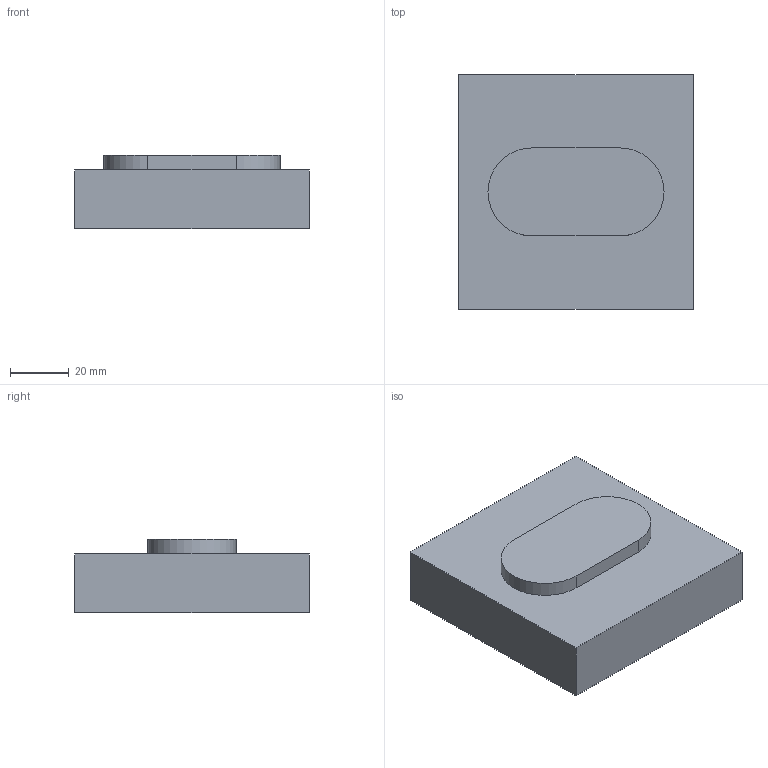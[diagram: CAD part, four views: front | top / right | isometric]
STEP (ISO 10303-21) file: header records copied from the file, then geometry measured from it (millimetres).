
FILE_DESCRIPTION(/* description */ (''),/* implementation_level */ '2;1');
FILE_NAME(/* name */ '1.2.1.stp',/* time_stamp */ '2023-02-18T11:16:07+08:00',/* author */ (''),/* organization */ (''),/* preprocessor_version */ 'ST-DEVELOPER v16.7',/* originating_system */ 'SIEMENS PLM Software NX 12.0',/* authorisation */ '');
FILE_SCHEMA (('AUTOMOTIVE_DESIGN { 1 0 10303 214 3 1 1 1 }'));
Length unit declared in the file: millimetre
Products named in the file (1): 1.2.1
Bounding box: 80 x 80 x 25 mm (x, y, z)
Volume: 136034.3 mm3; surface area: 19971.2 mm2
Topology: 1 solids, 1 shells, 11 faces, 24 edges, 16 vertices
Faces by surface type: plane 9, cylinder 2
Entity records: 326 total; most frequent: DIRECTION 52, CARTESIAN_POINT 52, ORIENTED_EDGE 48, EDGE_CURVE 24, LINE 20, VECTOR 20, VERTEX_POINT 16, AXIS2_PLACEMENT_3D 16
